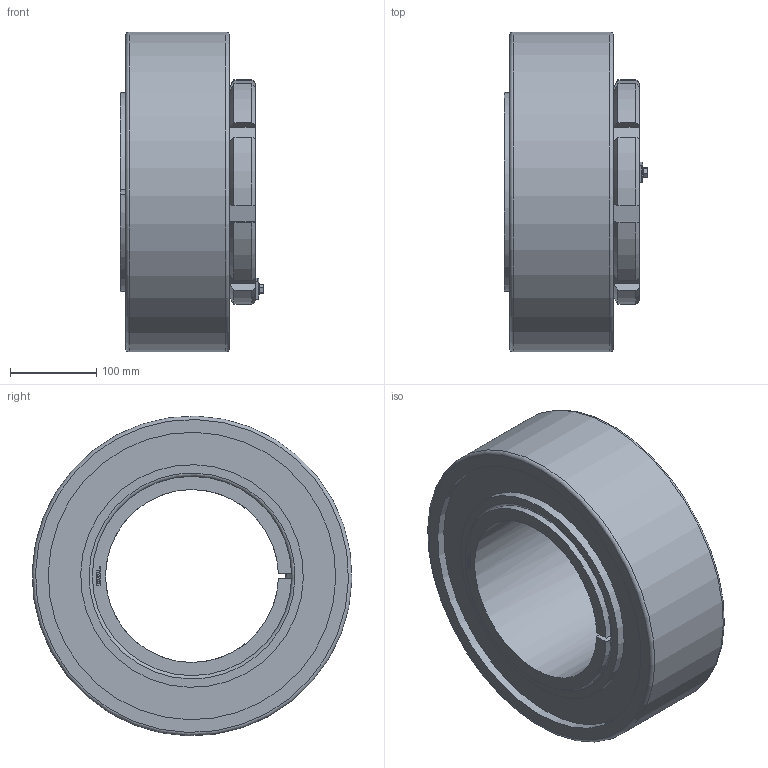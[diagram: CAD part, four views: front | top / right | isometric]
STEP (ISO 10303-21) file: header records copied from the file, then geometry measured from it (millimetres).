
FILE_DESCRIPTION( ( 'STEP AP203' ), ' ' );
FILE_NAME( 'p:/temp/worker_314/5048_4356/app_40_02016102818545350802206192d056f_000000_00_00_000000/format_0/BGL H 3144 TL+C3144K.stp', '2016-10-28T16:54:56', ( '' ), ( '' ), ' ', 'PARTsolutions', ' ' );
FILE_SCHEMA( ( 'CONFIG_CONTROL_DESIGN' ) );
Length unit declared in the file: millimetre
Products named in the file (6): BGL H 3144 TL+C3144K; _BGLH3144TLB; _BGL HM 3044; _BGLH3144TL+H-C3144K; _BGL MS 3044part; _BGL MS 3044HHS
Assembly tree (5 placements, depth 2):
  BGL H 3144 TL+C3144K
    _BGLH3144TLB
    _BGL HM 3044
    _BGLH3144TL+H-C3144K
    _BGL MS 3044part
    _BGL MS 3044HHS
Bounding box: 165.45 x 369.87 x 369.87 mm (x, y, z)
Volume: 9063141 mm3; surface area: 693223.9 mm2
Topology: 5 solids, 5 shells, 340 faces, 875 edges, 577 vertices
Faces by surface type: plane 219, cylinder 79, cone 38, torus 4
Full cylindrical faces by diameter (mm): 6 x9, 7 x1, 11.8 x1, 216 x1, 257.5 x2, 332.5 x2, 370 x1
Entity records: 10482 total; most frequent: CARTESIAN_POINT 2059, ORIENTED_EDGE 1680, DIRECTION 1673, EDGE_CURVE 840, VERTEX_POINT 575, LINE 563, VECTOR 563, AXIS2_PLACEMENT_3D 555
